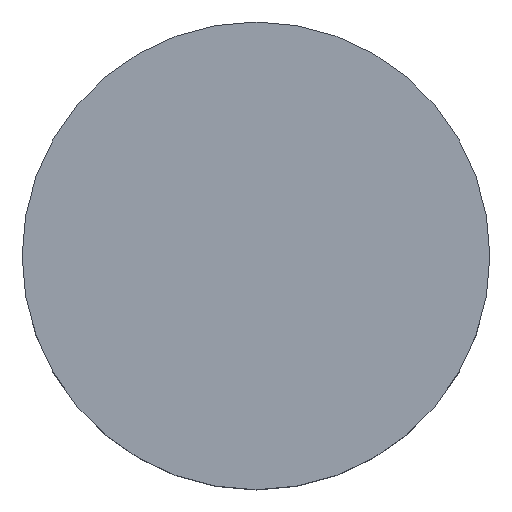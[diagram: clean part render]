
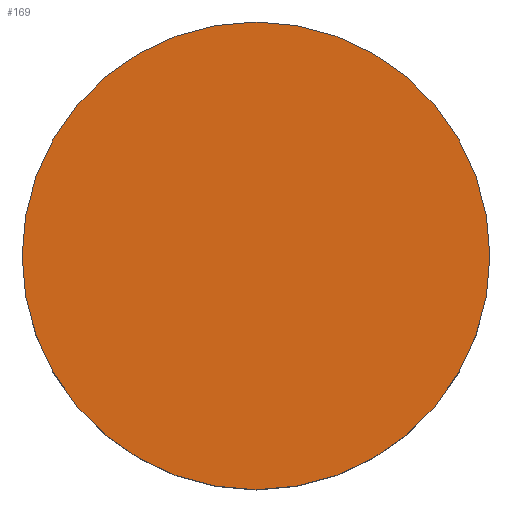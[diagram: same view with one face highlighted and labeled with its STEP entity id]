
A CAD part, top view. The second image highlights one B-rep face of the part: STEP entity #169.
In plain terms, the highlighted planar face has unit normal (0, 0, 1).
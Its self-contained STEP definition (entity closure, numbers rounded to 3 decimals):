
#169=ADVANCED_FACE('',(#209),#200,.T.);
#200=PLANE('',#534);
#209=FACE_OUTER_BOUND('',#233,.T.);
#233=EDGE_LOOP('',(#271,#272));
#271=ORIENTED_EDGE('',*,*,#429,.F.);
#272=ORIENTED_EDGE('',*,*,#430,.F.);
#391=VERTEX_POINT('',#773);
#392=VERTEX_POINT('',#774);
#429=EDGE_CURVE('',#391,#392,#489,.T.);
#430=EDGE_CURVE('',#392,#391,#490,.T.);
#489=CIRCLE('',#532,8.);
#490=CIRCLE('',#533,8.);
#532=AXIS2_PLACEMENT_3D('',#772,#607,#608);
#533=AXIS2_PLACEMENT_3D('',#775,#609,#610);
#534=AXIS2_PLACEMENT_3D('',#776,#611,#612);
#607=DIRECTION('',(0.,0.,-1.));
#608=DIRECTION('',(0.,1.,0.));
#609=DIRECTION('',(0.,0.,-1.));
#610=DIRECTION('',(0.,-1.,0.));
#611=DIRECTION('',(0.,0.,1.));
#612=DIRECTION('',(0.,-1.,0.));
#772=CARTESIAN_POINT('',(0.,0.,5.));
#773=CARTESIAN_POINT('',(8.,0.,5.));
#774=CARTESIAN_POINT('',(-8.,0.,5.));
#775=CARTESIAN_POINT('',(0.,0.,5.));
#776=CARTESIAN_POINT('',(0.,0.,5.));
